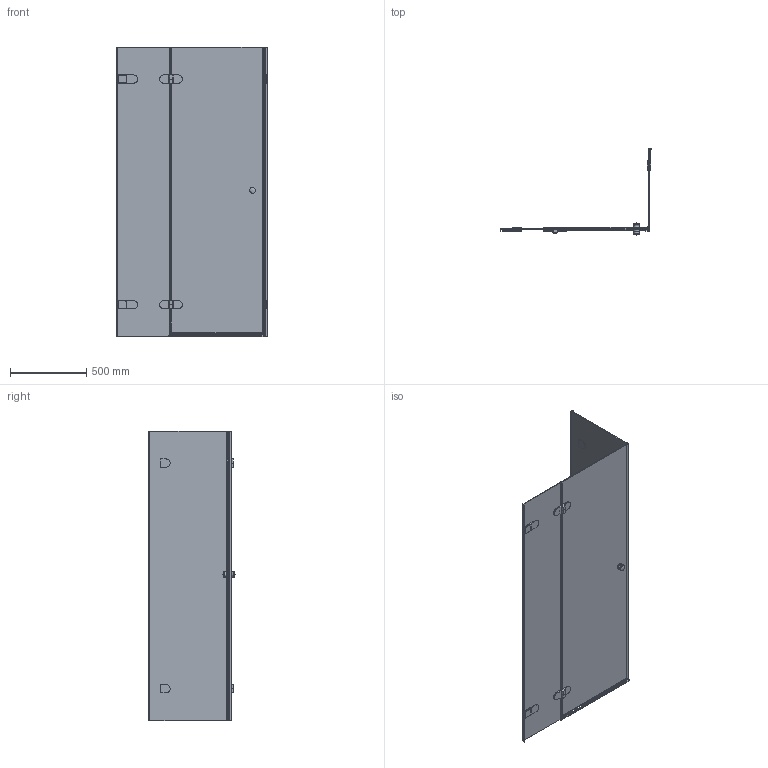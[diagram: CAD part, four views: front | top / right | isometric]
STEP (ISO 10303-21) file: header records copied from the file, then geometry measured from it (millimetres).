
FILE_DESCRIPTION(/* description */ (''),/* implementation_level */ '2;1');
FILE_NAME(/* name */ 'E:\Работа\Сергей\Душевые кабинки\! Работа\LUX SQUARE GK-003GA-2522\LUX SQUARE GK-003GA-2522 левая модель\LUX SQUARE GK-003GA-2522 ЛЕВАЯ-3D.stp',/* time_stamp */ '2017-06-03T10:28:24+03:00',/* author */ ('PC'),/* organization */ (''),/* preprocessor_version */ 'ST-DEVELOPER v15.2',/* originating_system */ 'Autodesk Inventor 2014',/* authorisation */ '');
FILE_SCHEMA (('AUTOMOTIVE_DESIGN { 1 0 10303 214 3 1 1 }'));
Length unit declared in the file: millimetre
Products named in the file (1): LUX SQUARE GK-003GA-2522 ЛЕВАЯ-
3D
Bounding box: 991.96 x 564.36 x 1901 mm (x, y, z)
Volume: 17967540.7 mm3; surface area: 6229808 mm2
Topology: 3 solids, 3 shells, 643 faces, 1575 edges, 974 vertices
Faces by surface type: plane 467, cylinder 157, torus 13, sphere 4, bspline 2
Full cylindrical faces by diameter (mm): 38 x4
Entity records: 19448 total; most frequent: CARTESIAN_POINT 3475, DIRECTION 3152, ORIENTED_EDGE 3138, EDGE_CURVE 1569, LINE 1214, VECTOR 1214, VERTEX_POINT 974, AXIS2_PLACEMENT_3D 969
